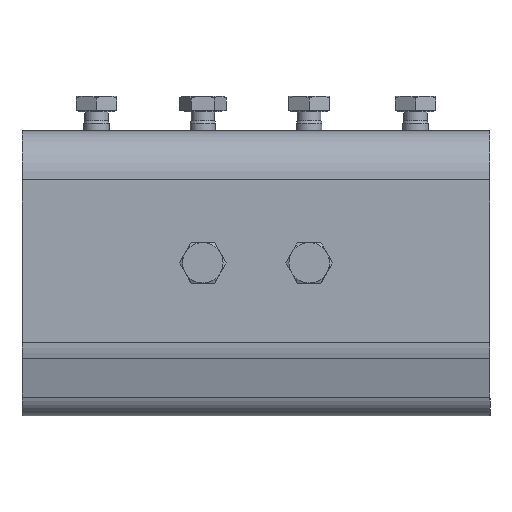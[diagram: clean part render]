
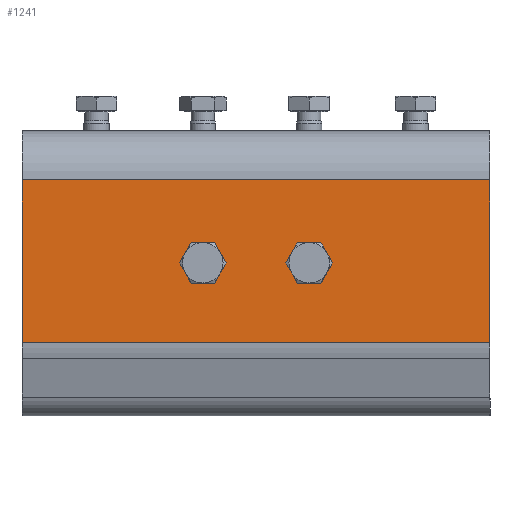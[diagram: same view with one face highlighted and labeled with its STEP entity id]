
A CAD part, left-side view. The second image highlights one B-rep face of the part: STEP entity #1241.
In plain terms, the highlighted planar face has unit normal (-1, 0, 0).
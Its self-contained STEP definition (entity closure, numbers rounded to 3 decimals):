
#91=FACE_BOUND('',#267,.T.);
#92=FACE_BOUND('',#268,.T.);
#167=FACE_OUTER_BOUND('',#266,.T.);
#266=EDGE_LOOP('',(#979,#980,#981,#982));
#267=EDGE_LOOP('',(#983));
#268=EDGE_LOOP('',(#984));
#344=LINE('',#1889,#440);
#370=LINE('',#1974,#466);
#373=LINE('',#1981,#469);
#377=LINE('',#1994,#473);
#440=VECTOR('',#1500,220.);
#466=VECTOR('',#1594,76.6);
#469=VECTOR('',#1601,220.);
#473=VECTOR('',#1621,76.6);
#539=CIRCLE('',#1340,5.053);
#541=CIRCLE('',#1343,5.053);
#587=VERTEX_POINT('',#1874);
#590=VERTEX_POINT('',#1882);
#612=VERTEX_POINT('',#1965);
#614=VERTEX_POINT('',#1970);
#615=VERTEX_POINT('',#1973);
#617=VERTEX_POINT('',#1980);
#698=EDGE_CURVE('',#590,#587,#344,.T.);
#733=EDGE_CURVE('',#612,#612,#539,.T.);
#735=EDGE_CURVE('',#614,#614,#541,.T.);
#736=EDGE_CURVE('',#615,#590,#370,.T.);
#740=EDGE_CURVE('',#617,#615,#373,.T.);
#747=EDGE_CURVE('',#587,#617,#377,.T.);
#979=ORIENTED_EDGE('',*,*,#698,.T.);
#980=ORIENTED_EDGE('',*,*,#747,.T.);
#981=ORIENTED_EDGE('',*,*,#740,.T.);
#982=ORIENTED_EDGE('',*,*,#736,.T.);
#983=ORIENTED_EDGE('',*,*,#735,.T.);
#984=ORIENTED_EDGE('',*,*,#733,.T.);
#1175=PLANE('',#1355);
#1241=ADVANCED_FACE('',(#167,#91,#92),#1175,.T.);
#1340=AXIS2_PLACEMENT_3D('',#1966,#1584,#1585);
#1343=AXIS2_PLACEMENT_3D('',#1971,#1590,#1591);
#1355=AXIS2_PLACEMENT_3D('',#1995,#1622,#1623);
#1500=DIRECTION('',(0.,1.,0.));
#1584=DIRECTION('center_axis',(1.,0.,0.));
#1585=DIRECTION('ref_axis',(0.,0.,
1.));
#1590=DIRECTION('center_axis',(1.,0.,0.));
#1591=DIRECTION('ref_axis',(0.,0.,
1.));
#1594=DIRECTION('',(0.,0.,1.));
#1601=DIRECTION('',(0.,-1.,0.));
#1621=DIRECTION('',(0.,0.,-1.));
#1622=DIRECTION('center_axis',(-1.,0.,0.));
#1623=DIRECTION('ref_axis',(0.,0.,1.));
#1874=CARTESIAN_POINT('',(-57.,110.,-23.));
#1882=CARTESIAN_POINT('',(-57.,-110.,-23.));
#1889=CARTESIAN_POINT('',(-57.,55.,-23.));
#1965=CARTESIAN_POINT('',(-57.,-25.,-56.947));
#1966=CARTESIAN_POINT('Origin',(-57.,-25.,-62.));
#1970=CARTESIAN_POINT('',(-57.,25.,-56.947));
#1971=CARTESIAN_POINT('Origin',(-57.,25.,-62.));
#1973=CARTESIAN_POINT('',(-57.,-110.,-99.6));
#1974=CARTESIAN_POINT('',(-57.,-110.,-149.3));
#1980=CARTESIAN_POINT('',(-57.,110.,-99.6));
#1981=CARTESIAN_POINT('',(-57.,-55.,-99.6));
#1994=CARTESIAN_POINT('',(-57.,110.,227.3));
#1995=CARTESIAN_POINT('Origin',(-57.,0.,
215.225));
